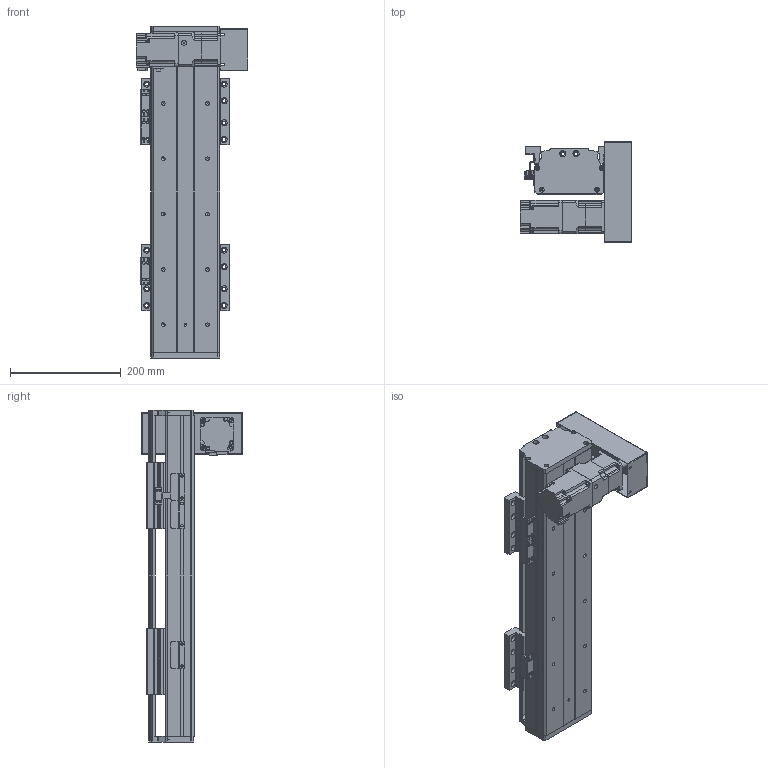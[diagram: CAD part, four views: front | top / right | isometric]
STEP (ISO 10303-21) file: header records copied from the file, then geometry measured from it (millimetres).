
FILE_DESCRIPTION(/* description */ (''),/* implementation_level */ '2;1');
FILE_NAME(/* name */ 'C:\Users\PC\Desktop\3D도면\STEP\새 폴더\DSB125-DR2G-W0300-L.stp',/* time_stamp */ '2018-06-21T14:54:55+09:00',/* author */ ('PC'),/* organization */ (''),/* preprocessor_version */ 'ST-DEVELOPER v16.5',/* originating_system */ 'Autodesk Inventor 2017',/* authorisation */ '');
FILE_SCHEMA (('AUTOMOTIVE_DESIGN { 1 0 10303 214 3 1 1 }'));
Length unit declared in the file: millimetre
Products named in the file (12): DSB125-DL2G-W0300-R_MIR; DSB125-BASE_MIR; DSB125-FRONT COVER_MIR; DSB125-REAR COVER_MIR; DSB125-UP COVER_MIR; hg-kr23__MIR; ab0601-p0401200402_MIR; 13-BELT COVER_MIR; DSR125-SENSOR DOG_MIR; pm-y65_step_MIR; SENSOR BRACKET(EE-SX674A)_MIR; DSB125-TABLE(MSB15S)_MIR
Assembly tree (16 placements, depth 2):
  DSB125-DL2G-W0300-R_MIR
    DSB125-BASE_MIR
    DSB125-FRONT COVER_MIR
    DSB125-REAR COVER_MIR
    DSB125-UP COVER_MIR
    hg-kr23__MIR
    ab0601-p0401200402_MIR
    13-BELT COVER_MIR
    DSR125-SENSOR DOG_MIR
    pm-y65_step_MIR  x3
    SENSOR BRACKET(EE-SX674A)_MIR  x3
    DSB125-TABLE(MSB15S)_MIR  x2
Bounding box: 202.1 x 182 x 600 mm (x, y, z)
Volume: 2855265.7 mm3; surface area: 826470.7 mm2
Topology: 17 solids, 17 shells, 1635 faces, 4440 edges, 2930 vertices
Faces by surface type: plane 903, cylinder 618, cone 102, sphere 8, torus 4
Full cylindrical faces by diameter (mm): 2.459 x20, 3.242 x16, 3.5 x6, 4 x1, 4.134 x16, 4.2 x4, 4.3 x1, 4.5 x50, 4.917 x20, 5 x22, 5.3 x1, 5.5 x4, 5.6 x8, 5.8 x4, 5.9 x8, 6 x4, 6.6 x22, 6.647 x12, 7.5 x32, 8.5 x8, 8.7 x1, 11 x22, 14 x1, 16 x2, 17 x1, 20 x1, 47 x1, 50 x3
Entity records: 35465 total; most frequent: CARTESIAN_POINT 6411, DIRECTION 6010, ORIENTED_EDGE 5426, EDGE_CURVE 2713, AXIS2_PLACEMENT_3D 2193, VERTEX_POINT 1922, LINE 1624, VECTOR 1624
